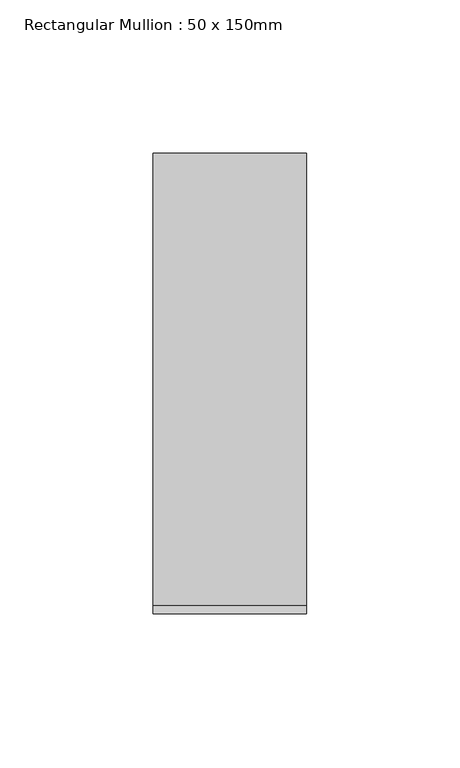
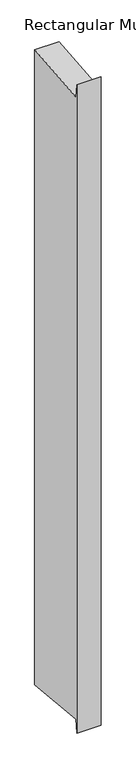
"""IFC4 building model written with IfcOpenShell, lengths in millimetres: member geometry, Rectangular Mullion : 50 x 150mm."""

from ifc_helpers import new_model, si_unit, frame, origin, place, context, project, spatial, polyline, outline, extrude, source, transform, mapped, element, save


def rectangular_mullion_50_x_150mm_02debbb2(model_context):
    return source(origin(), model_context, "Body", "SweptSolid", [
        extrude(outline(polyline([(-75.0, 21.4499324), (-72.3032509, -6.9724867), (75.0, 7.003801), (75.0, -1373.1006994), (-72.3032509, -1359.1244117), (-75.0, -1387.5468307), (-75.0, 21.4499324)])), frame((-50.0, 0.0, 0.0), z_axis=(1.0, 0.0, 0.0), x_axis=(0.0, 1.0, 0.0)), (0.0, 0.0, 1.0), 50.0),
    ])


if __name__ == "__main__":
    model = new_model("IFC4")
    model_context = context("Model", 3, world=origin())
    ifc_project = project(units=[si_unit("LENGTHUNIT", "METRE", prefix="MILLI")], contexts=[model_context])
    site = spatial("IfcSite", under=ifc_project)
    building = spatial("IfcBuilding", under=site)
    placement = place(None, origin())
    rectangular_mullion_50_x_150mm_shape = rectangular_mullion_50_x_150mm_02debbb2(model_context)
    element("IfcMember", 1, ObjectType="Rectangular Mullion : 50 x 150mm", at=placement, inside=building, context=model_context, shape_type="MappedRepresentation", body=[
        mapped(rectangular_mullion_50_x_150mm_shape, transform((0.0, 0.0, 0.0), x_axis=(1.0, 0.0, 0.0), y_axis=(0.0, 1.0, 0.0), z_axis=(0.0, 0.0, 1.0))),
    ])
    save(model, "model.ifc")
